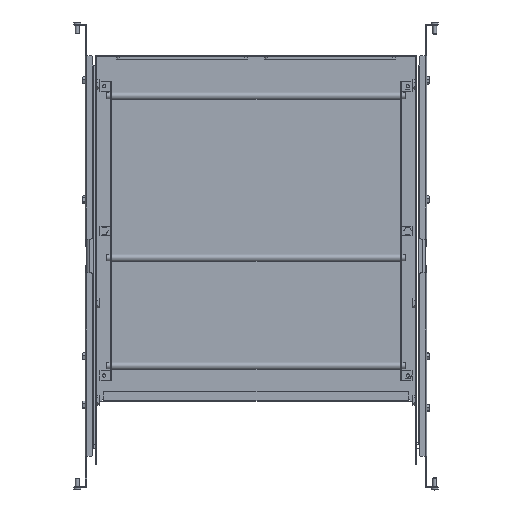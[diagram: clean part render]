
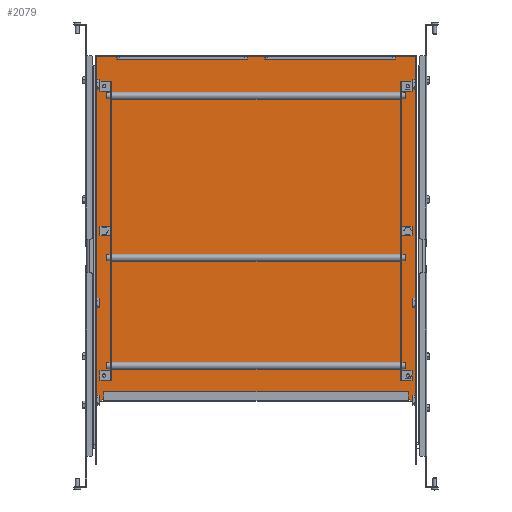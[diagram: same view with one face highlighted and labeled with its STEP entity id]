
A CAD part, top view. The second image highlights one B-rep face of the part: STEP entity #2079.
In plain terms, the highlighted planar face has unit normal (0, 0, 1).
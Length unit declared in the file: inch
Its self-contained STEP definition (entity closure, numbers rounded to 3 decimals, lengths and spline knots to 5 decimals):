
#1937=CARTESIAN_POINT('',(16.6165,3.25,0.06));
#1938=VERTEX_POINT('',#1937);
#1966=CARTESIAN_POINT('',(16.3015,3.25,0.06));
#1967=VERTEX_POINT('',#1966);
#1976=CARTESIAN_POINT('',(16.3015,3.25,0.06));
#1977=DIRECTION('',(1.0,0.0,0.0));
#1978=VECTOR('',#1977,0.315);
#1979=LINE('',#1976,#1978);
#1980=EDGE_CURVE('',#1967,#1938,#1979,.T.);
#1985=CARTESIAN_POINT('',(8.33875,10.59375,0.06));
#1986=DIRECTION('',(0.0,0.0,1.0));
#1987=DIRECTION('',(1.0,0.0,0.0));
#1988=AXIS2_PLACEMENT_3D('',#1985,#1986,#1987);
#1989=PLANE('',#1988);
#1990=CARTESIAN_POINT('',(16.3015,3.341,0.06));
#1991=VERTEX_POINT('',#1990);
#1992=CARTESIAN_POINT('',(16.3015,3.341,0.06));
#1993=DIRECTION('',(0.0,-1.0,0.0));
#1994=VECTOR('',#1993,0.091);
#1995=LINE('',#1992,#1994);
#1996=EDGE_CURVE('',#1991,#1967,#1995,.T.);
#1997=ORIENTED_EDGE('',*,*,#1996,.T.);
#1998=ORIENTED_EDGE('',*,*,#1980,.T.);
#1999=CARTESIAN_POINT('',(16.6165,21.1265,0.06));
#2000=VERTEX_POINT('',#1999);
#2001=CARTESIAN_POINT('',(16.6165,3.25,0.06));
#2002=DIRECTION('',(0.0,1.0,0.0));
#2003=VECTOR('',#2002,17.8765);
#2004=LINE('',#2001,#2003);
#2005=EDGE_CURVE('',#1938,#2000,#2004,.T.);
#2006=ORIENTED_EDGE('',*,*,#2005,.T.);
#2007=CARTESIAN_POINT('',(0.061,21.1265,0.06));
#2008=VERTEX_POINT('',#2007);
#2009=CARTESIAN_POINT('',(16.6165,21.1265,0.06));
#2010=DIRECTION('',(-1.0,0.0,0.0));
#2011=VECTOR('',#2010,16.5555);
#2012=LINE('',#2009,#2011);
#2013=EDGE_CURVE('',#2000,#2008,#2012,.T.);
#2014=ORIENTED_EDGE('',*,*,#2013,.T.);
#2015=CARTESIAN_POINT('',(0.061,3.25,0.06));
#2016=VERTEX_POINT('',#2015);
#2017=CARTESIAN_POINT('',(0.061,21.1265,0.06));
#2018=DIRECTION('',(0.0,-1.0,0.0));
#2019=VECTOR('',#2018,17.8765);
#2020=LINE('',#2017,#2019);
#2021=EDGE_CURVE('',#2008,#2016,#2020,.T.);
#2022=ORIENTED_EDGE('',*,*,#2021,.T.);
#2023=CARTESIAN_POINT('',(0.376,3.25,0.06));
#2024=VERTEX_POINT('',#2023);
#2025=CARTESIAN_POINT('',(0.061,3.25,0.06));
#2026=DIRECTION('',(1.0,0.0,0.0));
#2027=VECTOR('',#2026,0.315);
#2028=LINE('',#2025,#2027);
#2029=EDGE_CURVE('',#2016,#2024,#2028,.T.);
#2030=ORIENTED_EDGE('',*,*,#2029,.T.);
#2031=CARTESIAN_POINT('',(0.376,3.341,0.06));
#2032=VERTEX_POINT('',#2031);
#2033=CARTESIAN_POINT('',(0.376,3.25,0.06));
#2034=DIRECTION('',(0.0,1.0,0.0));
#2035=VECTOR('',#2034,0.091);
#2036=LINE('',#2033,#2035);
#2037=EDGE_CURVE('',#2024,#2032,#2036,.T.);
#2038=ORIENTED_EDGE('',*,*,#2037,.T.);
#2039=CARTESIAN_POINT('',(0.436,3.341,0.06));
#2040=VERTEX_POINT('',#2039);
#2041=CARTESIAN_POINT('',(0.376,3.341,0.06));
#2042=DIRECTION('',(1.0,0.0,0.0));
#2043=VECTOR('',#2042,0.06);
#2044=LINE('',#2041,#2043);
#2045=EDGE_CURVE('',#2032,#2040,#2044,.T.);
#2046=ORIENTED_EDGE('',*,*,#2045,.T.);
#2047=CARTESIAN_POINT('',(0.436,3.311,0.06));
#2048=VERTEX_POINT('',#2047);
#2049=CARTESIAN_POINT('',(0.436,3.341,0.06));
#2050=DIRECTION('',(0.0,-1.0,0.0));
#2051=VECTOR('',#2050,0.03);
#2052=LINE('',#2049,#2051);
#2053=EDGE_CURVE('',#2040,#2048,#2052,.T.);
#2054=ORIENTED_EDGE('',*,*,#2053,.T.);
#2055=CARTESIAN_POINT('',(16.2415,3.311,0.06));
#2056=VERTEX_POINT('',#2055);
#2057=CARTESIAN_POINT('',(0.436,3.311,0.06));
#2058=DIRECTION('',(1.0,0.0,0.0));
#2059=VECTOR('',#2058,15.8055);
#2060=LINE('',#2057,#2059);
#2061=EDGE_CURVE('',#2048,#2056,#2060,.T.);
#2062=ORIENTED_EDGE('',*,*,#2061,.T.);
#2063=CARTESIAN_POINT('',(16.2415,3.341,0.06));
#2064=VERTEX_POINT('',#2063);
#2065=CARTESIAN_POINT('',(16.2415,3.311,0.06));
#2066=DIRECTION('',(0.0,1.0,0.0));
#2067=VECTOR('',#2066,0.03);
#2068=LINE('',#2065,#2067);
#2069=EDGE_CURVE('',#2056,#2064,#2068,.T.);
#2070=ORIENTED_EDGE('',*,*,#2069,.T.);
#2071=CARTESIAN_POINT('',(16.2415,3.341,0.06));
#2072=DIRECTION('',(1.0,0.0,0.0));
#2073=VECTOR('',#2072,0.06);
#2074=LINE('',#2071,#2073);
#2075=EDGE_CURVE('',#2064,#1991,#2074,.T.);
#2076=ORIENTED_EDGE('',*,*,#2075,.T.);
#2077=EDGE_LOOP('',(#1997,#1998,#2006,#2014,#2022,#2030,#2038,#2046,#2054,#2062,#2070,#2076));
#2078=FACE_OUTER_BOUND('',#2077,.T.);
#2079=ADVANCED_FACE('',(#2078),#1989,.T.);
